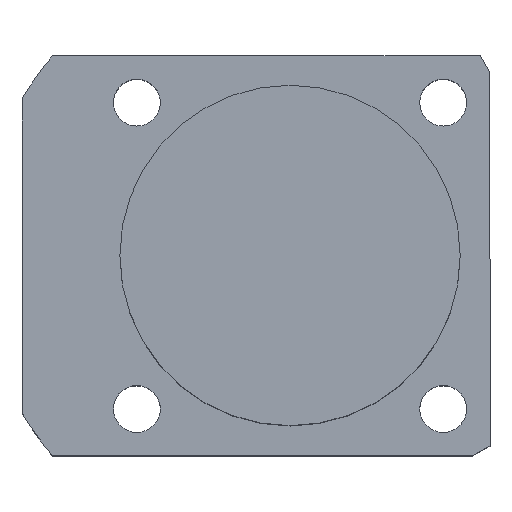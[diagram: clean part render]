
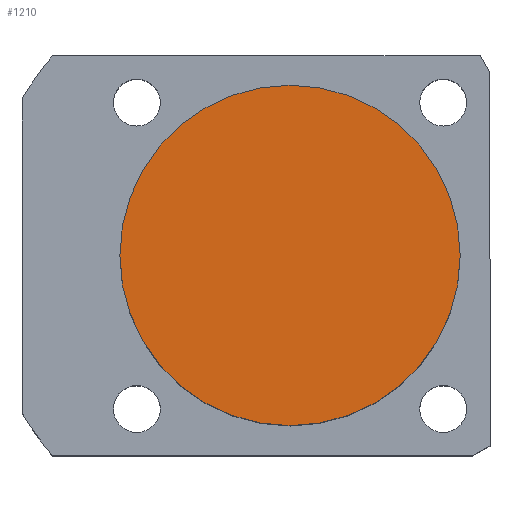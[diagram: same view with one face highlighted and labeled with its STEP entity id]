
A CAD part, top view. The second image highlights one B-rep face of the part: STEP entity #1210.
In plain terms, the highlighted planar face has unit normal (0, 0, 1).
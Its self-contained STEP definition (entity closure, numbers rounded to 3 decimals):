
#38 = CIRCLE ( 'NONE', #987, 20. ) ;
#106 = DIRECTION ( 'NONE',  ( 0., 0., 1. ) ) ;
#129 = CARTESIAN_POINT ( 'NONE',  ( 0., 0., 36.5 ) ) ;
#233 = EDGE_CURVE ( 'NONE', #1554, #1524, #509, .T. ) ;
#374 = AXIS2_PLACEMENT_3D ( 'NONE', #1467, #106, #654 ) ;
#434 = PLANE ( 'NONE',  #1661 ) ;
#509 = CIRCLE ( 'NONE', #374, 20. ) ;
#650 = DIRECTION ( 'NONE',  ( 0., 0., 1. ) ) ;
#652 = CARTESIAN_POINT ( 'NONE',  ( -20., 0., 36.5 ) ) ;
#654 = DIRECTION ( 'NONE',  ( 1., 0., 0. ) ) ;
#659 = CARTESIAN_POINT ( 'NONE',  ( 20., 0., 36.5 ) ) ;
#669 = DIRECTION ( 'NONE',  ( 1., 0., 0. ) ) ;
#816 = DIRECTION ( 'NONE',  ( 0., 0., 1. ) ) ;
#987 = AXIS2_PLACEMENT_3D ( 'NONE', #1465, #650, #669 ) ;
#1020 = EDGE_CURVE ( 'NONE', #1524, #1554, #38, .T. ) ;
#1210 = ADVANCED_FACE ( 'NONE', ( #1343 ), #434, .T. ) ;
#1343 = FACE_OUTER_BOUND ( 'NONE', #1600, .T. ) ;
#1404 = ORIENTED_EDGE ( 'NONE', *, *, #233, .T. ) ;
#1465 = CARTESIAN_POINT ( 'NONE',  ( 0., 0., 36.5 ) ) ;
#1467 = CARTESIAN_POINT ( 'NONE',  ( 0., 0., 36.5 ) ) ;
#1502 = DIRECTION ( 'NONE',  ( 1., 0., 0. ) ) ;
#1524 = VERTEX_POINT ( 'NONE', #652 ) ;
#1554 = VERTEX_POINT ( 'NONE', #659 ) ;
#1600 = EDGE_LOOP ( 'NONE', ( #1722, #1404 ) ) ;
#1661 = AXIS2_PLACEMENT_3D ( 'NONE', #129, #816, #1502 ) ;
#1722 = ORIENTED_EDGE ( 'NONE', *, *, #1020, .T. ) ;
